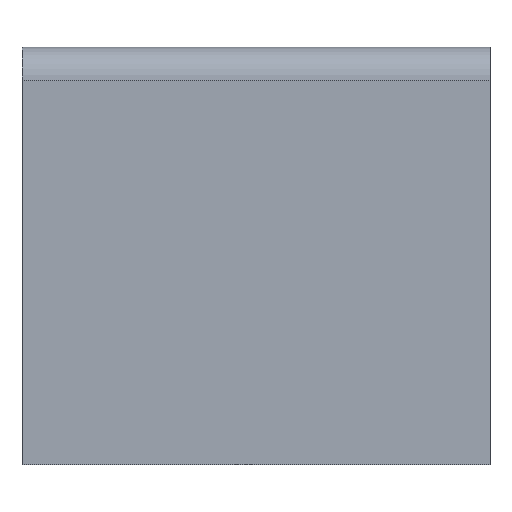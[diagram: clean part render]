
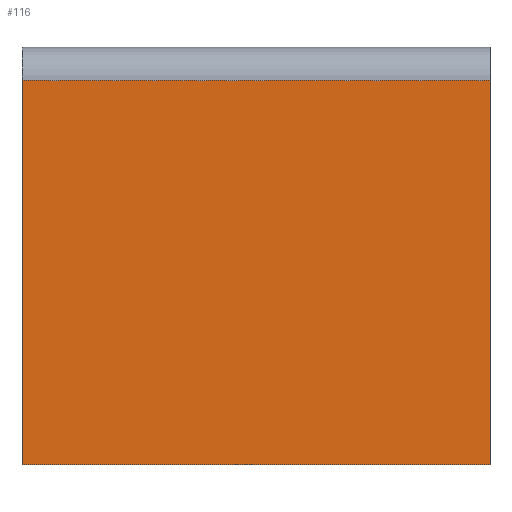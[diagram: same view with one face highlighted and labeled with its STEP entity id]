
A CAD part, left-side view. The second image highlights one B-rep face of the part: STEP entity #116.
In plain terms, the highlighted planar face has unit normal (-1, 0, 0).
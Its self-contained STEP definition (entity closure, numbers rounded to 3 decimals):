
#59 = CARTESIAN_POINT ( 'NONE',  ( 0., 0., 23. ) ) ;
#76 = LINE ( 'NONE', #257, #159 ) ;
#81 = VECTOR ( 'NONE', #504, 1000. ) ;
#84 = VERTEX_POINT ( 'NONE', #223 ) ;
#107 = VECTOR ( 'NONE', #336, 1000. ) ;
#116 = ADVANCED_FACE ( 'NONE', ( #295 ), #588, .F. ) ;
#119 = EDGE_LOOP ( 'NONE', ( #486, #589, #690, #204 ) ) ;
#134 = AXIS2_PLACEMENT_3D ( 'NONE', #415, #408, #349 ) ;
#139 = CARTESIAN_POINT ( 'NONE',  ( 0., 0., 23. ) ) ;
#148 = VERTEX_POINT ( 'NONE', #723 ) ;
#159 = VECTOR ( 'NONE', #283, 1000. ) ;
#188 = LINE ( 'NONE', #670, #419 ) ;
#204 = ORIENTED_EDGE ( 'NONE', *, *, #432, .T. ) ;
#208 = LINE ( 'NONE', #391, #107 ) ;
#223 = CARTESIAN_POINT ( 'NONE',  ( 0., 28., 0. ) ) ;
#246 = EDGE_CURVE ( 'NONE', #593, #668, #188, .T. ) ;
#257 = CARTESIAN_POINT ( 'NONE',  ( 0., 0., 0. ) ) ;
#283 = DIRECTION ( 'NONE',  ( 0., -1., 0. ) ) ;
#295 = FACE_OUTER_BOUND ( 'NONE', #119, .T. ) ;
#336 = DIRECTION ( 'NONE',  ( 0., 0., -1. ) ) ;
#349 = DIRECTION ( 'NONE',  ( 0., 0., -1. ) ) ;
#391 = CARTESIAN_POINT ( 'NONE',  ( 0., 28., 25. ) ) ;
#392 = EDGE_CURVE ( 'NONE', #593, #148, #510, .T. ) ;
#408 = DIRECTION ( 'NONE',  ( 1., 0., 0. ) ) ;
#415 = CARTESIAN_POINT ( 'NONE',  ( 0., 0., 25. ) ) ;
#419 = VECTOR ( 'NONE', #426, 1000. ) ;
#426 = DIRECTION ( 'NONE',  ( 0., 0., -1. ) ) ;
#432 = EDGE_CURVE ( 'NONE', #84, #668, #76, .T. ) ;
#486 = ORIENTED_EDGE ( 'NONE', *, *, #246, .F. ) ;
#504 = DIRECTION ( 'NONE',  ( 0., 1., 0. ) ) ;
#510 = LINE ( 'NONE', #139, #81 ) ;
#588 = PLANE ( 'NONE',  #134 ) ;
#589 = ORIENTED_EDGE ( 'NONE', *, *, #392, .T. ) ;
#593 = VERTEX_POINT ( 'NONE', #59 ) ;
#608 = CARTESIAN_POINT ( 'NONE',  ( 0., 0., 0. ) ) ;
#668 = VERTEX_POINT ( 'NONE', #608 ) ;
#670 = CARTESIAN_POINT ( 'NONE',  ( 0., 0., 25. ) ) ;
#690 = ORIENTED_EDGE ( 'NONE', *, *, #777, .T. ) ;
#723 = CARTESIAN_POINT ( 'NONE',  ( 0., 28., 23. ) ) ;
#777 = EDGE_CURVE ( 'NONE', #148, #84, #208, .T. ) ;
